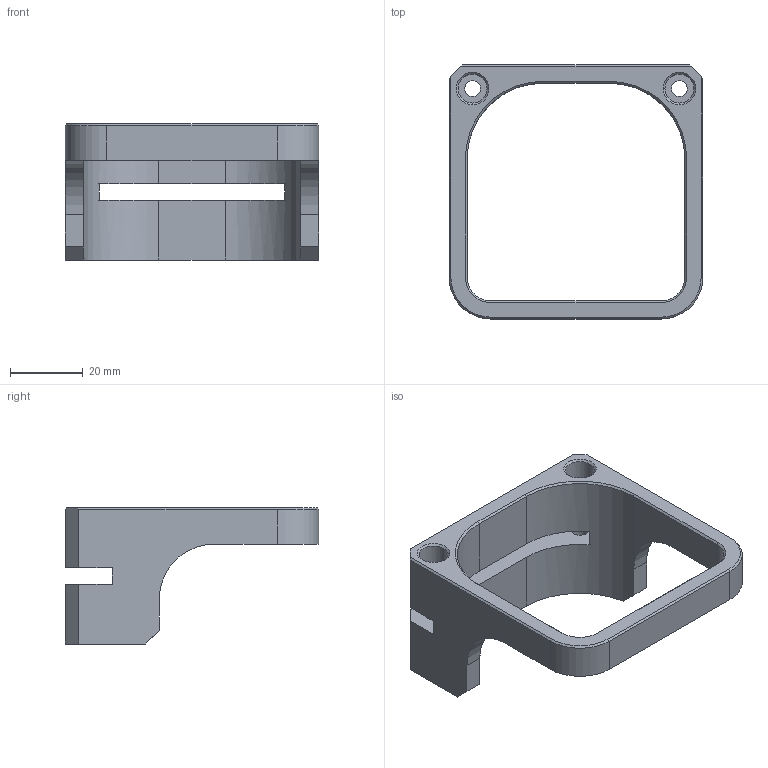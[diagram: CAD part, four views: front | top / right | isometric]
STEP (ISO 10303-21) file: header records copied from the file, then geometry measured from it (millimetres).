
FILE_DESCRIPTION(/* description */ (''),/* implementation_level */ '2;1');
FILE_NAME(/* name */ '/Users/aaronb/Desktop/002 REV A.step',/* time_stamp */ '2022-03-28T07:58:42-04:00',/* author */ (''),/* organization */ (''),/* preprocessor_version */ 'ST-DEVELOPER v18.1',/* originating_system */ 'Autodesk Translation Framework v10.13.0.1454',/* authorisation */ '');
FILE_SCHEMA (('AUTOMOTIVE_DESIGN { 1 0 10303 214 3 1 1 }'));
Length unit declared in the file: millimetre
Products named in the file (1): 002
Bounding box: 70 x 70 x 37.5 mm (x, y, z)
Volume: 30320.8 mm3; surface area: 15070.1 mm2
Topology: 1 solids, 1 shells, 57 faces, 156 edges, 100 vertices
Faces by surface type: plane 35, cylinder 14, cone 8
Full cylindrical faces by diameter (mm): 4.4 x4, 8 x2
Entity records: 1862 total; most frequent: DIRECTION 316, CARTESIAN_POINT 314, ORIENTED_EDGE 312, EDGE_CURVE 156, LINE 112, VECTOR 112, AXIS2_PLACEMENT_3D 102, VERTEX_POINT 100
